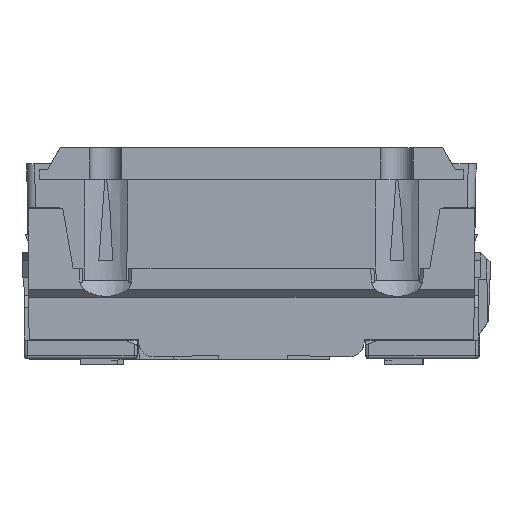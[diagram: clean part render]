
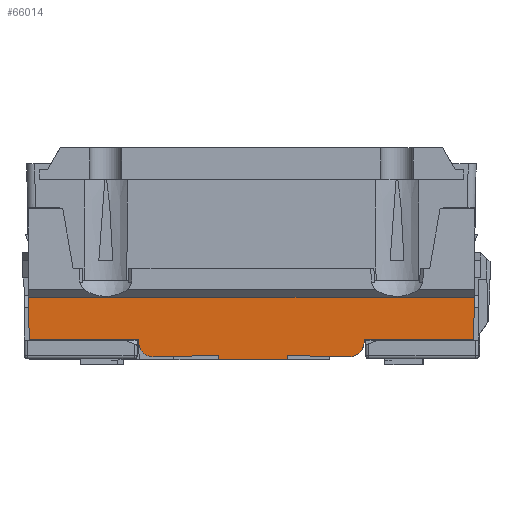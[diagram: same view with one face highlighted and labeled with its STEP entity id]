
A CAD part, left-side view. The second image highlights one B-rep face of the part: STEP entity #66014.
In plain terms, the highlighted planar face has unit normal (-1, 0, -0.009).
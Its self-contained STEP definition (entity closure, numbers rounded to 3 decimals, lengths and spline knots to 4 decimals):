
#994=ELLIPSE('',#69516,0.23,0.23);
#1011=ELLIPSE('',#69703,0.23,0.23);
#2553=LINE('',#93203,#8798);
#3187=LINE('',#94772,#9432);
#4090=LINE('',#96756,#10335);
#4091=LINE('',#96758,#10336);
#4094=LINE('',#96764,#10339);
#4096=LINE('',#96769,#10341);
#4098=LINE('',#96772,#10343);
#4230=LINE('',#97029,#10475);
#4239=LINE('',#97046,#10484);
#4271=LINE('',#97108,#10516);
#4402=LINE('',#97431,#10647);
#4403=LINE('',#97432,#10648);
#8798=VECTOR('',#75691,0.0501);
#9432=VECTOR('',#76667,7.2873);
#10335=VECTOR('',#78596,1.7901);
#10336=VECTOR('',#78599,0.6994);
#10339=VECTOR('',#78604,0.0718);
#10341=VECTOR('',#78608,0.0725);
#10343=VECTOR('',#78612,1.061);
#10475=VECTOR('',#78852,1.131);
#10484=VECTOR('',#78867,1.0189);
#10516=VECTOR('',#78927,0.6994);
#10647=VECTOR('',#79280,0.0501);
#10648=VECTOR('',#79281,1.7901);
#16028=PLANE('',#69702);
#18627=FACE_OUTER_BOUND('',#22050,.T.);
#22050=EDGE_LOOP('',(#48091,#48092,#48093,#48094,#48095,#48096,#48097,#48098,
#48099,#48100,#48101,#48102,#48103,#48104));
#27200=VERTEX_POINT('',#93200);
#27201=VERTEX_POINT('',#93202);
#27830=VERTEX_POINT('',#94769);
#27831=VERTEX_POINT('',#94771);
#28362=VERTEX_POINT('',#96750);
#28363=VERTEX_POINT('',#96754);
#28364=VERTEX_POINT('',#96760);
#28365=VERTEX_POINT('',#96762);
#28366=VERTEX_POINT('',#96766);
#28367=VERTEX_POINT('',#96768);
#28443=VERTEX_POINT('',#97044);
#28459=VERTEX_POINT('',#97107);
#28539=VERTEX_POINT('',#97428);
#28540=VERTEX_POINT('',#97430);
#33802=EDGE_CURVE('',#27200,#27201,#2553,.F.);
#34553=EDGE_CURVE('',#27830,#27831,#3187,.T.);
#35534=EDGE_CURVE('',#28362,#27200,#994,.F.);
#35537=EDGE_CURVE('',#27201,#28363,#4090,.F.);
#35538=EDGE_CURVE('',#27830,#28363,#4091,.F.);
#35541=EDGE_CURVE('',#28364,#28365,#4094,.T.);
#35543=EDGE_CURVE('',#28367,#28366,#4096,.T.);
#35545=EDGE_CURVE('',#28367,#28362,#4098,.T.);
#35677=EDGE_CURVE('',#28364,#28366,#4230,.F.);
#35686=EDGE_CURVE('',#28365,#28443,#4239,.T.);
#35718=EDGE_CURVE('',#28459,#27831,#4271,.F.);
#35883=EDGE_CURVE('',#28539,#28443,#1011,.F.);
#35884=EDGE_CURVE('',#28540,#28539,#4402,.F.);
#35885=EDGE_CURVE('',#28459,#28540,#4403,.F.);
#48091=ORIENTED_EDGE('',*,*,#35545,.F.);
#48092=ORIENTED_EDGE('',*,*,#35543,.T.);
#48093=ORIENTED_EDGE('',*,*,#35677,.F.);
#48094=ORIENTED_EDGE('',*,*,#35541,.T.);
#48095=ORIENTED_EDGE('',*,*,#35686,.T.);
#48096=ORIENTED_EDGE('',*,*,#35883,.F.);
#48097=ORIENTED_EDGE('',*,*,#35884,.F.);
#48098=ORIENTED_EDGE('',*,*,#35885,.F.);
#48099=ORIENTED_EDGE('',*,*,#35718,.T.);
#48100=ORIENTED_EDGE('',*,*,#34553,.F.);
#48101=ORIENTED_EDGE('',*,*,#35538,.T.);
#48102=ORIENTED_EDGE('',*,*,#35537,.F.);
#48103=ORIENTED_EDGE('',*,*,#33802,.F.);
#48104=ORIENTED_EDGE('',*,*,#35534,.F.);
#66014=ADVANCED_FACE('',(#18627),#16028,.T.);
#69516=AXIS2_PLACEMENT_3D('',#96751,#78590,#78591);
#69702=AXIS2_PLACEMENT_3D('',#97427,#79276,#79277);
#69703=AXIS2_PLACEMENT_3D('',#97429,#79278,#79279);
#75691=DIRECTION('',(0.009,-0.017,-1.));
#76667=DIRECTION('',(0.,-1.,0.));
#78590=DIRECTION('center_axis',(-1.,0.,
-0.009));
#78591=DIRECTION('ref_axis',(0.009,0.,
-1.));
#78596=DIRECTION('',(0.,-1.,0.));
#78599=DIRECTION('',(-0.009,0.017,1.));
#78604=DIRECTION('',(-0.009,-0.017,1.));
#78608=DIRECTION('',(0.009,-0.017,-1.));
#78612=DIRECTION('',(0.,1.,-0.017));
#78852=DIRECTION('',(0.,-1.,0.));
#78867=DIRECTION('',(0.,-1.,-0.017));
#78927=DIRECTION('',(0.009,0.017,-1.));
#79276=DIRECTION('center_axis',(-1.,0.,
-0.009));
#79277=DIRECTION('ref_axis',(0.,-1.,0.));
#79278=DIRECTION('center_axis',(-1.,0.,
-0.009));
#79279=DIRECTION('ref_axis',(0.009,0.,
-1.));
#79280=DIRECTION('',(-0.009,-0.017,1.));
#79281=DIRECTION('',(0.,-1.,0.));
#93200=CARTESIAN_POINT('',(-4.0878,1.8405,-2.41));
#93202=CARTESIAN_POINT('',(-4.0882,1.8414,-2.36));
#93203=CARTESIAN_POINT('',(-4.096,1.8569,-1.4717));
#94769=CARTESIAN_POINT('',(-4.0943,3.6436,-1.6607));
#94771=CARTESIAN_POINT('',(-4.0943,-3.6436,-1.6607));
#94772=CARTESIAN_POINT('',(-4.0943,3.6384,-1.6607));
#96750=CARTESIAN_POINT('',(-4.0858,1.6065,-2.636));
#96751=CARTESIAN_POINT('Origin',(-4.0878,1.6105,-2.406));
#96754=CARTESIAN_POINT('',(-4.0882,3.6314,-2.36));
#96756=CARTESIAN_POINT('',(-4.0882,1.8196,-2.36));
#96758=CARTESIAN_POINT('',(-4.0973,3.6496,-1.321));
#96760=CARTESIAN_POINT('',(-4.0853,-0.5865,-2.69));
#96762=CARTESIAN_POINT('',(-4.086,-0.5878,-2.6182));
#96764=CARTESIAN_POINT('',(-4.091,-0.5979,-2.0409));
#96766=CARTESIAN_POINT('',(-4.0853,0.5444,-2.69));
#96768=CARTESIAN_POINT('',(-4.086,0.5457,-2.6175));
#96769=CARTESIAN_POINT('',(-4.0915,0.5568,-1.9793));
#96772=CARTESIAN_POINT('',(-4.0856,2.7271,-2.6556));
#97029=CARTESIAN_POINT('',(-4.0853,0.1196,-2.69));
#97044=CARTESIAN_POINT('',(-4.0858,-1.6065,-2.636));
#97046=CARTESIAN_POINT('',(-4.0863,1.3599,-2.5842));
#97107=CARTESIAN_POINT('',(-4.0882,-3.6314,-2.36));
#97108=CARTESIAN_POINT('',(-4.0909,-3.6367,-2.0566));
#97427=CARTESIAN_POINT('Origin',(-4.0967,3.6392,-1.3905));
#97428=CARTESIAN_POINT('',(-4.0878,-1.8405,-2.41));
#97429=CARTESIAN_POINT('Origin',(-4.0878,-1.6105,-2.406));
#97430=CARTESIAN_POINT('',(-4.0882,-1.8414,-2.36));
#97431=CARTESIAN_POINT('',(-4.0954,-1.8558,-1.5349));
#97432=CARTESIAN_POINT('',(-4.0882,1.8196,-2.36));
